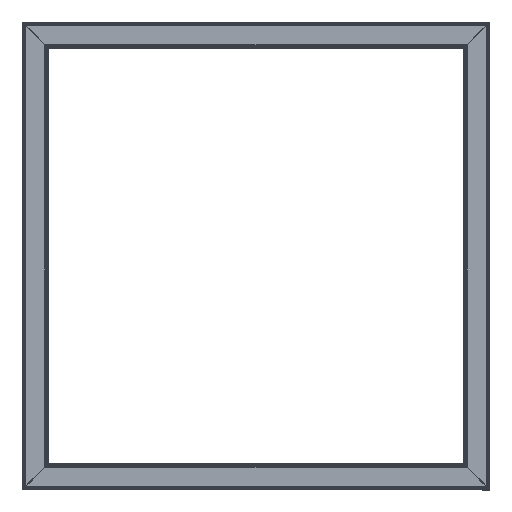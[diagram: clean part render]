
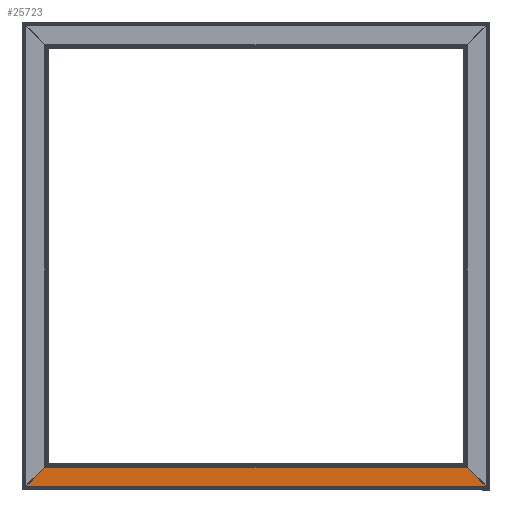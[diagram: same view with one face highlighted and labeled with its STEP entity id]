
A CAD part, top view. The second image highlights one B-rep face of the part: STEP entity #25723.
In plain terms, the highlighted planar face has unit normal (0, 0, 1).
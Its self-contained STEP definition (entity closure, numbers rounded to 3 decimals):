
#2604=LINE('',#40284,#4584);
#2605=LINE('',#40287,#4585);
#2606=LINE('',#40289,#4586);
#2607=LINE('',#40291,#4587);
#4584=VECTOR('',#33280,1000.);
#4585=VECTOR('',#33281,1000.);
#4586=VECTOR('',#33282,1000.);
#4587=VECTOR('',#33283,1000.);
#5351=PLANE('',#27690);
#11213=ORIENTED_EDGE('',*,*,#14697,.F.);
#11214=ORIENTED_EDGE('',*,*,#14698,.F.);
#11215=ORIENTED_EDGE('',*,*,#14699,.T.);
#11216=ORIENTED_EDGE('',*,*,#14700,.T.);
#14697=EDGE_CURVE('',#16933,#16934,#2604,.T.);
#14698=EDGE_CURVE('',#16935,#16933,#2605,.T.);
#14699=EDGE_CURVE('',#16935,#16936,#2606,.T.);
#14700=EDGE_CURVE('',#16936,#16934,#2607,.T.);
#16933=VERTEX_POINT('',#40285);
#16934=VERTEX_POINT('',#40286);
#16935=VERTEX_POINT('',#40288);
#16936=VERTEX_POINT('',#40290);
#18517=EDGE_LOOP('',(#11213,#11214,#11215,#11216));
#19735=FACE_BOUND('',#18517,.T.);
#25723=ADVANCED_FACE('',(#19735),#5351,.T.);
#27690=AXIS2_PLACEMENT_3D('',#40283,#33278,#33279);
#33278=DIRECTION('',(0.,0.,1.));
#33279=DIRECTION('',(0.,-1.,0.));
#33280=DIRECTION('',(0.707,-0.707,0.));
#33281=DIRECTION('',(1.,0.,0.));
#33282=DIRECTION('',(-0.707,-0.707,0.));
#33283=DIRECTION('',(1.,0.,0.));
#40283=CARTESIAN_POINT('',(-634.5,2.55,15.));
#40284=CARTESIAN_POINT('',(16.5,2.25,15.));
#40285=CARTESIAN_POINT('',(-15.7,34.45,15.));
#40286=CARTESIAN_POINT('',(16.2,2.55,15.));
#40287=CARTESIAN_POINT('',(-634.5,34.45,15.));
#40288=CARTESIAN_POINT('',(-602.3,34.45,15.));
#40289=CARTESIAN_POINT('',(-602.,34.75,15.));
#40290=CARTESIAN_POINT('',(-634.2,2.55,15.));
#40291=CARTESIAN_POINT('',(-634.5,2.55,15.));
